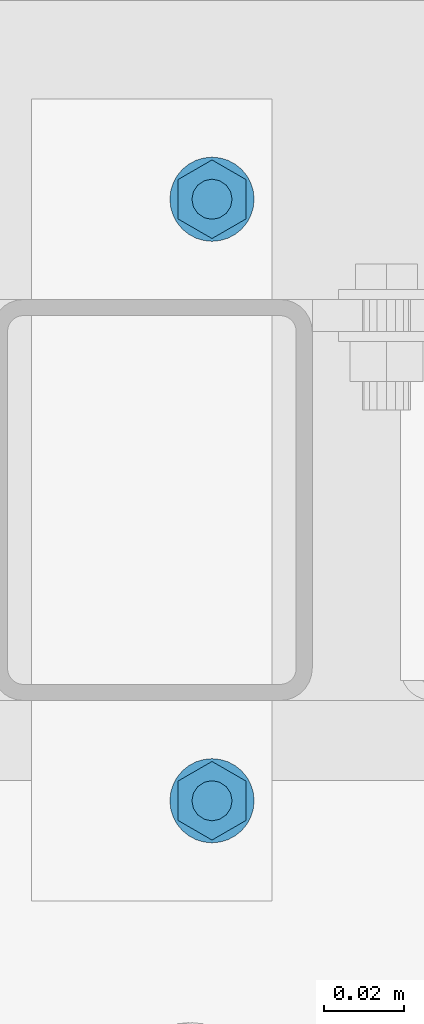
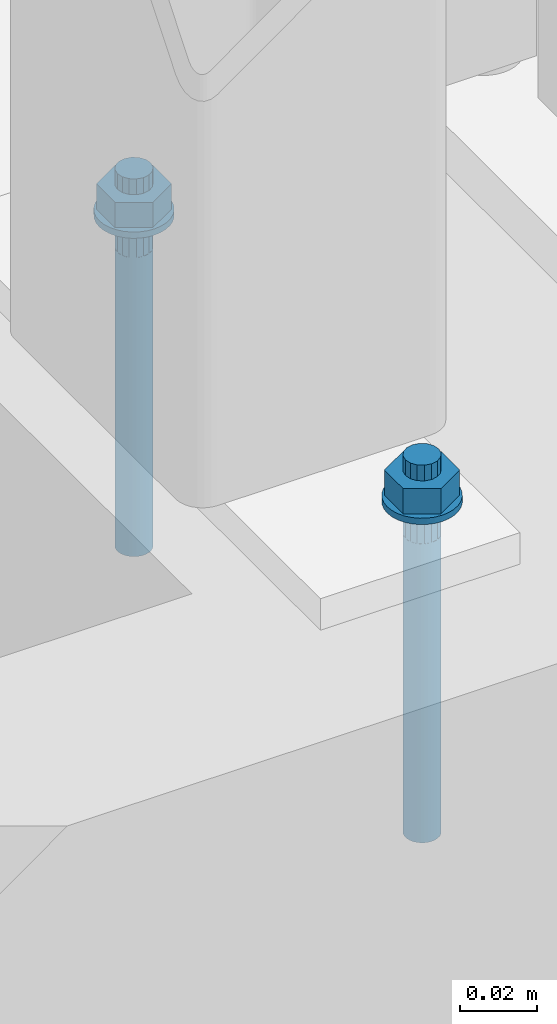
# One storey, part 248 of 476: 1 mechanical fastener.
"""IFC2X3 building model written with IfcOpenShell, lengths in millimetres."""

from ifc_helpers import new_model, entity, si_unit, converted_unit, origin_with_axes, place, context, project, spatial, faceted_brep, element, save


model = new_model("IFC2X3")

# Units and contexts
model_context = context("Model", 3, precision=1e-09, world=origin_with_axes())
ifc_project = project(units=[si_unit("LENGTHUNIT", "METRE", prefix="MILLI"), si_unit("AREAUNIT", "SQUARE_METRE"), si_unit("VOLUMEUNIT", "CUBIC_METRE"), converted_unit("PLANEANGLEUNIT", "DEGREE", entity("IfcPlaneAngleMeasure", 0.01745329), si_unit("PLANEANGLEUNIT", "RADIAN"), dimensions=[0, 0, 0, 0, 0, 0, 0])], contexts=[model_context])

# Site, building, storey
site_placement = place(None, origin_with_axes())
site = spatial("IfcSite", under=ifc_project, at=site_placement, Name="mKR Teilneubau & Sanierung BA1 - Ostfildern", CompositionType="ELEMENT")
building_placement = place(site_placement, origin_with_axes())
building = spatial("IfcBuilding", under=site, at=building_placement, Name="Struktur 1", CompositionType="ELEMENT")
storey_placement = place(building_placement, origin_with_axes())
storey = spatial("IfcBuildingStorey", under=building, at=storey_placement, Name="Default Storey", CompositionType="ELEMENT", Elevation=0.0)

# Mechanical fastener
mechanical_fastener_placement = place(None, origin_with_axes())
element("IfcMechanicalFastener", 1, at=mechanical_fastener_placement, inside=storey, ObjectType="Anchor_Bolt#1", NominalDiameter=10.0, NominalLength=120.0, context=model_context, shape_type="Brep", body=[
    faceted_brep([(23520.109764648, -4143.67387897, 527.0), (23520.109764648, -4143.67387897, 525.0), (23520.311519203, -4145.722327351, 525.0), (23520.311519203, -4145.722327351, 527.0), (23520.909029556, -4147.69205501, 525.0), (23520.909029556, -4147.69205501, 527.0), (23521.879333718, -4149.507366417, 525.0), (23521.879333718, -4149.507366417, 527.0), (23523.185143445, -4151.098500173, 525.0), (23523.185143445, -4151.098500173, 527.0), (23524.776277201, -4152.404309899, 525.0), (23524.776277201, -4152.404309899, 527.0), (23526.591588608, -4153.374614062, 525.0), (23526.591588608, -4153.374614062, 527.0), (23528.561316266, -4153.972124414, 525.0), (23528.561316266, -4153.972124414, 527.0), (23530.609764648, -4154.17387897, 525.0), (23530.609764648, -4154.17387897, 527.0), (23532.658213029, -4153.972124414, 525.0), (23532.658213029, -4153.972124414, 527.0), (23534.627940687, -4153.374614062, 525.0), (23534.627940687, -4153.374614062, 527.0), (23536.443252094, -4152.404309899, 525.0), (23536.443252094, -4152.404309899, 527.0), (23538.03438585, -4151.098500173, 525.0), (23538.03438585, -4151.098500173, 527.0), (23539.340195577, -4149.507366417, 525.0), (23539.340195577, -4149.507366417, 527.0), (23540.310499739, -4147.69205501, 525.0), (23540.310499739, -4147.69205501, 527.0), (23540.908010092, -4145.722327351, 525.0), (23540.908010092, -4145.722327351, 527.0), (23541.109764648, -4143.67387897, 525.0), (23541.109764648, -4143.67387897, 527.0), (23540.908010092, -4141.625430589, 525.0), (23540.908010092, -4141.625430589, 527.0), (23540.310499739, -4139.65570293, 525.0), (23540.310499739, -4139.65570293, 527.0), (23539.340195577, -4137.840391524, 525.0), (23539.340195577, -4137.840391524, 527.0), (23538.03438585, -4136.249257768, 525.0), (23538.03438585, -4136.249257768, 527.0), (23536.443252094, -4134.943448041, 525.0), (23536.443252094, -4134.943448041, 527.0), (23534.627940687, -4133.973143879, 525.0), (23534.627940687, -4133.973143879, 527.0), (23532.658213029, -4133.375633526, 525.0), (23532.658213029, -4133.375633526, 527.0), (23530.609764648, -4133.17387897, 525.0), (23530.609764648, -4133.17387897, 527.0), (23528.561316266, -4133.375633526, 525.0), (23528.561316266, -4133.375633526, 527.0), (23526.591588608, -4133.973143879, 525.0), (23526.591588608, -4133.973143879, 527.0), (23524.776277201, -4134.943448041, 525.0), (23524.776277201, -4134.943448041, 527.0), (23523.185143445, -4136.249257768, 525.0), (23523.185143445, -4136.249257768, 527.0), (23521.879333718, -4137.840391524, 525.0), (23521.879333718, -4137.840391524, 527.0), (23520.909029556, -4139.65570293, 525.0), (23520.909029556, -4139.65570293, 527.0), (23520.311519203, -4141.625430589, 525.0), (23520.311519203, -4141.625430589, 527.0)], [[[0, 1, 2, 3]], [[3, 2, 4, 5]], [[5, 4, 6, 7]], [[7, 6, 8, 9]], [[9, 8, 10, 11]], [[11, 10, 12, 13]], [[13, 12, 14, 15]], [[15, 14, 16, 17]], [[17, 16, 18, 19]], [[19, 18, 20, 21]], [[21, 20, 22, 23]], [[23, 22, 24, 25]], [[25, 24, 26, 27]], [[27, 26, 28, 29]], [[29, 28, 30, 31]], [[31, 30, 32, 33]], [[33, 32, 34, 35]], [[35, 34, 36, 37]], [[37, 36, 38, 39]], [[39, 38, 40, 41]], [[41, 40, 42, 43]], [[43, 42, 44, 45]], [[45, 44, 46, 47]], [[47, 46, 48, 49]], [[49, 48, 50, 51]], [[51, 50, 52, 53]], [[53, 52, 54, 55]], [[55, 54, 56, 57]], [[57, 56, 58, 59]], [[59, 58, 60, 61]], [[61, 60, 62, 63]], [[63, 62, 1, 0]], [[0, 3, 5, 7, 9, 11, 13, 15, 17, 19, 21, 23, 25, 27, 29, 31, 33, 35, 37, 39, 41, 43, 45, 47, 49, 51, 53, 55, 57, 59, 61, 63]], [[1, 62, 60, 58, 56, 54, 52, 50, 48, 46, 44, 42, 40, 38, 36, 34, 32, 30, 28, 26, 24, 22, 20, 18, 16, 14, 12, 10, 8, 6, 4, 2]]]),
    faceted_brep([(23520.109764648, -4293.67387897, 527.0), (23520.109764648, -4293.67387897, 525.0), (23520.311519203, -4295.722327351, 525.0), (23520.311519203, -4295.722327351, 527.0), (23520.909029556, -4297.69205501, 525.0), (23520.909029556, -4297.69205501, 527.0), (23521.879333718, -4299.507366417, 525.0), (23521.879333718, -4299.507366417, 527.0), (23523.185143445, -4301.098500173, 525.0), (23523.185143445, -4301.098500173, 527.0), (23524.776277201, -4302.404309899, 525.0), (23524.776277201, -4302.404309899, 527.0), (23526.591588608, -4303.374614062, 525.0), (23526.591588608, -4303.374614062, 527.0), (23528.561316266, -4303.972124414, 525.0), (23528.561316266, -4303.972124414, 527.0), (23530.609764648, -4304.17387897, 525.0), (23530.609764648, -4304.17387897, 527.0), (23532.658213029, -4303.972124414, 525.0), (23532.658213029, -4303.972124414, 527.0), (23534.627940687, -4303.374614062, 525.0), (23534.627940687, -4303.374614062, 527.0), (23536.443252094, -4302.404309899, 525.0), (23536.443252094, -4302.404309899, 527.0), (23538.03438585, -4301.098500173, 525.0), (23538.03438585, -4301.098500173, 527.0), (23539.340195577, -4299.507366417, 525.0), (23539.340195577, -4299.507366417, 527.0), (23540.310499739, -4297.69205501, 525.0), (23540.310499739, -4297.69205501, 527.0), (23540.908010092, -4295.722327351, 525.0), (23540.908010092, -4295.722327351, 527.0), (23541.109764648, -4293.67387897, 525.0), (23541.109764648, -4293.67387897, 527.0), (23540.908010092, -4291.625430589, 525.0), (23540.908010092, -4291.625430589, 527.0), (23540.310499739, -4289.65570293, 525.0), (23540.310499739, -4289.65570293, 527.0), (23539.340195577, -4287.840391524, 525.0), (23539.340195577, -4287.840391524, 527.0), (23538.03438585, -4286.249257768, 525.0), (23538.03438585, -4286.249257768, 527.0), (23536.443252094, -4284.943448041, 525.0), (23536.443252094, -4284.943448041, 527.0), (23534.627940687, -4283.973143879, 525.0), (23534.627940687, -4283.973143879, 527.0), (23532.658213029, -4283.375633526, 525.0), (23532.658213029, -4283.375633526, 527.0), (23530.609764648, -4283.17387897, 525.0), (23530.609764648, -4283.17387897, 527.0), (23528.561316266, -4283.375633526, 525.0), (23528.561316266, -4283.375633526, 527.0), (23526.591588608, -4283.973143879, 525.0), (23526.591588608, -4283.973143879, 527.0), (23524.776277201, -4284.943448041, 525.0), (23524.776277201, -4284.943448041, 527.0), (23523.185143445, -4286.249257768, 525.0), (23523.185143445, -4286.249257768, 527.0), (23521.879333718, -4287.840391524, 525.0), (23521.879333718, -4287.840391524, 527.0), (23520.909029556, -4289.65570293, 525.0), (23520.909029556, -4289.65570293, 527.0), (23520.311519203, -4291.625430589, 525.0), (23520.311519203, -4291.625430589, 527.0)], [[[0, 1, 2, 3]], [[3, 2, 4, 5]], [[5, 4, 6, 7]], [[7, 6, 8, 9]], [[9, 8, 10, 11]], [[11, 10, 12, 13]], [[13, 12, 14, 15]], [[15, 14, 16, 17]], [[17, 16, 18, 19]], [[19, 18, 20, 21]], [[21, 20, 22, 23]], [[23, 22, 24, 25]], [[25, 24, 26, 27]], [[27, 26, 28, 29]], [[29, 28, 30, 31]], [[31, 30, 32, 33]], [[33, 32, 34, 35]], [[35, 34, 36, 37]], [[37, 36, 38, 39]], [[39, 38, 40, 41]], [[41, 40, 42, 43]], [[43, 42, 44, 45]], [[45, 44, 46, 47]], [[47, 46, 48, 49]], [[49, 48, 50, 51]], [[51, 50, 52, 53]], [[53, 52, 54, 55]], [[55, 54, 56, 57]], [[57, 56, 58, 59]], [[59, 58, 60, 61]], [[61, 60, 62, 63]], [[63, 62, 1, 0]], [[0, 3, 5, 7, 9, 11, 13, 15, 17, 19, 21, 23, 25, 27, 29, 31, 33, 35, 37, 39, 41, 43, 45, 47, 49, 51, 53, 55, 57, 59, 61, 63]], [[1, 62, 60, 58, 56, 54, 52, 50, 48, 46, 44, 42, 40, 38, 36, 34, 32, 30, 28, 26, 24, 22, 20, 18, 16, 14, 12, 10, 8, 6, 4, 2]]]),
    faceted_brep([(23539.096813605, -4148.57387897, 527.0), (23539.096813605, -4148.57387897, 535.0), (23530.609764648, -4153.47387897, 535.0), (23530.609764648, -4153.47387897, 527.0), (23522.12271569, -4148.57387897, 535.0), (23522.12271569, -4148.57387897, 527.0), (23522.12271569, -4138.77387897, 535.0), (23522.12271569, -4138.77387897, 527.0), (23530.609764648, -4133.87387897, 535.0), (23530.609764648, -4133.87387897, 527.0), (23539.096813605, -4138.77387897, 535.0), (23539.096813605, -4138.77387897, 527.0)], [[[0, 1, 2, 3]], [[3, 2, 4, 5]], [[5, 4, 6, 7]], [[7, 6, 8, 9]], [[9, 8, 10, 11]], [[11, 10, 1, 0]], [[4, 2, 1, 10, 8, 6]], [[0, 3, 5, 7, 9, 11]]]),
    faceted_brep([(23539.096813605, -4298.57387897, 527.0), (23539.096813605, -4298.57387897, 535.0), (23530.609764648, -4303.47387897, 535.0), (23530.609764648, -4303.47387897, 527.0), (23522.12271569, -4298.57387897, 535.0), (23522.12271569, -4298.57387897, 527.0), (23522.12271569, -4288.77387897, 535.0), (23522.12271569, -4288.77387897, 527.0), (23530.609764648, -4283.87387897, 535.0), (23530.609764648, -4283.87387897, 527.0), (23539.096813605, -4288.77387897, 535.0), (23539.096813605, -4288.77387897, 527.0)], [[[0, 1, 2, 3]], [[3, 2, 4, 5]], [[5, 4, 6, 7]], [[7, 6, 8, 9]], [[9, 8, 10, 11]], [[11, 10, 1, 0]], [[4, 2, 1, 10, 8, 6]], [[0, 3, 5, 7, 9, 11]]]),
    faceted_brep([(23525.609764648, -4143.67387897, 540.0), (23525.609764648, -4143.67387897, 535.0), (23525.990366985, -4145.587296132, 535.0), (23525.990366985, -4145.587296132, 540.0), (23527.074230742, -4147.209412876, 535.0), (23527.074230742, -4147.209412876, 540.0), (23528.696347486, -4148.293276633, 535.0), (23528.696347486, -4148.293276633, 540.0), (23530.609764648, -4148.67387897, 535.0), (23530.609764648, -4148.67387897, 540.0), (23532.523181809, -4148.293276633, 535.0), (23532.523181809, -4148.293276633, 540.0), (23534.145298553, -4147.209412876, 535.0), (23534.145298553, -4147.209412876, 540.0), (23535.22916231, -4145.587296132, 535.0), (23535.22916231, -4145.587296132, 540.0), (23535.609764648, -4143.67387897, 535.0), (23535.609764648, -4143.67387897, 540.0), (23535.22916231, -4141.760461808, 535.0), (23535.22916231, -4141.760461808, 540.0), (23534.145298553, -4140.138345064, 535.0), (23534.145298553, -4140.138345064, 540.0), (23532.523181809, -4139.054481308, 535.0), (23532.523181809, -4139.054481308, 540.0), (23530.609764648, -4138.67387897, 535.0), (23530.609764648, -4138.67387897, 540.0), (23528.696347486, -4139.054481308, 535.0), (23528.696347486, -4139.054481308, 540.0), (23527.074230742, -4140.138345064, 535.0), (23527.074230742, -4140.138345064, 540.0), (23525.990366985, -4141.760461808, 535.0), (23525.990366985, -4141.760461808, 540.0)], [[[0, 1, 2, 3]], [[3, 2, 4, 5]], [[5, 4, 6, 7]], [[7, 6, 8, 9]], [[9, 8, 10, 11]], [[11, 10, 12, 13]], [[13, 12, 14, 15]], [[15, 14, 16, 17]], [[17, 16, 18, 19]], [[19, 18, 20, 21]], [[21, 20, 22, 23]], [[23, 22, 24, 25]], [[25, 24, 26, 27]], [[27, 26, 28, 29]], [[29, 28, 30, 31]], [[31, 30, 1, 0]], [[0, 3, 5, 7, 9, 11, 13, 15, 17, 19, 21, 23, 25, 27, 29, 31]], [[1, 30, 28, 26, 24, 22, 20, 18, 16, 14, 12, 10, 8, 6, 4, 2]]]),
    faceted_brep([(23525.609764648, -4293.67387897, 540.0), (23525.609764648, -4293.67387897, 535.0), (23525.990366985, -4295.587296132, 535.0), (23525.990366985, -4295.587296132, 540.0), (23527.074230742, -4297.209412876, 535.0), (23527.074230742, -4297.209412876, 540.0), (23528.696347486, -4298.293276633, 535.0), (23528.696347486, -4298.293276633, 540.0), (23530.609764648, -4298.67387897, 535.0), (23530.609764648, -4298.67387897, 540.0), (23532.523181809, -4298.293276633, 535.0), (23532.523181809, -4298.293276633, 540.0), (23534.145298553, -4297.209412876, 535.0), (23534.145298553, -4297.209412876, 540.0), (23535.22916231, -4295.587296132, 535.0), (23535.22916231, -4295.587296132, 540.0), (23535.609764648, -4293.67387897, 535.0), (23535.609764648, -4293.67387897, 540.0), (23535.22916231, -4291.760461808, 535.0), (23535.22916231, -4291.760461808, 540.0), (23534.145298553, -4290.138345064, 535.0), (23534.145298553, -4290.138345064, 540.0), (23532.523181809, -4289.054481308, 535.0), (23532.523181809, -4289.054481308, 540.0), (23530.609764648, -4288.67387897, 535.0), (23530.609764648, -4288.67387897, 540.0), (23528.696347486, -4289.054481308, 535.0), (23528.696347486, -4289.054481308, 540.0), (23527.074230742, -4290.138345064, 535.0), (23527.074230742, -4290.138345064, 540.0), (23525.990366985, -4291.760461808, 535.0), (23525.990366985, -4291.760461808, 540.0)], [[[0, 1, 2, 3]], [[3, 2, 4, 5]], [[5, 4, 6, 7]], [[7, 6, 8, 9]], [[9, 8, 10, 11]], [[11, 10, 12, 13]], [[13, 12, 14, 15]], [[15, 14, 16, 17]], [[17, 16, 18, 19]], [[19, 18, 20, 21]], [[21, 20, 22, 23]], [[23, 22, 24, 25]], [[25, 24, 26, 27]], [[27, 26, 28, 29]], [[29, 28, 30, 31]], [[31, 30, 1, 0]], [[0, 3, 5, 7, 9, 11, 13, 15, 17, 19, 21, 23, 25, 27, 29, 31]], [[1, 30, 28, 26, 24, 22, 20, 18, 16, 14, 12, 10, 8, 6, 4, 2]]]),
    faceted_brep([(23525.609764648, -4143.67387897, 525.0), (23525.609764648, -4143.67387897, 515.0), (23525.990366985, -4145.587296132, 515.0), (23525.990366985, -4145.587296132, 525.0), (23527.074230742, -4147.209412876, 515.0), (23527.074230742, -4147.209412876, 525.0), (23528.696347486, -4148.293276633, 515.0), (23528.696347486, -4148.293276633, 525.0), (23530.609764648, -4148.67387897, 515.0), (23530.609764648, -4148.67387897, 525.0), (23532.523181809, -4148.293276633, 515.0), (23532.523181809, -4148.293276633, 525.0), (23534.145298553, -4147.209412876, 515.0), (23534.145298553, -4147.209412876, 525.0), (23535.22916231, -4145.587296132, 515.0), (23535.22916231, -4145.587296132, 525.0), (23535.609764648, -4143.67387897, 515.0), (23535.609764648, -4143.67387897, 525.0), (23535.22916231, -4141.760461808, 515.0), (23535.22916231, -4141.760461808, 525.0), (23534.145298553, -4140.138345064, 515.0), (23534.145298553, -4140.138345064, 525.0), (23532.523181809, -4139.054481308, 515.0), (23532.523181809, -4139.054481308, 525.0), (23530.609764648, -4138.67387897, 515.0), (23530.609764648, -4138.67387897, 525.0), (23528.696347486, -4139.054481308, 515.0), (23528.696347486, -4139.054481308, 525.0), (23527.074230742, -4140.138345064, 515.0), (23527.074230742, -4140.138345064, 525.0), (23525.990366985, -4141.760461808, 515.0), (23525.990366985, -4141.760461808, 525.0)], [[[0, 1, 2, 3]], [[3, 2, 4, 5]], [[5, 4, 6, 7]], [[7, 6, 8, 9]], [[9, 8, 10, 11]], [[11, 10, 12, 13]], [[13, 12, 14, 15]], [[15, 14, 16, 17]], [[17, 16, 18, 19]], [[19, 18, 20, 21]], [[21, 20, 22, 23]], [[23, 22, 24, 25]], [[25, 24, 26, 27]], [[27, 26, 28, 29]], [[29, 28, 30, 31]], [[31, 30, 1, 0]], [[0, 3, 5, 7, 9, 11, 13, 15, 17, 19, 21, 23, 25, 27, 29, 31]], [[1, 30, 28, 26, 24, 22, 20, 18, 16, 14, 12, 10, 8, 6, 4, 2]]]),
    faceted_brep([(23525.609764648, -4293.67387897, 525.0), (23525.609764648, -4293.67387897, 515.0), (23525.990366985, -4295.587296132, 515.0), (23525.990366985, -4295.587296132, 525.0), (23527.074230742, -4297.209412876, 515.0), (23527.074230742, -4297.209412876, 525.0), (23528.696347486, -4298.293276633, 515.0), (23528.696347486, -4298.293276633, 525.0), (23530.609764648, -4298.67387897, 515.0), (23530.609764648, -4298.67387897, 525.0), (23532.523181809, -4298.293276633, 515.0), (23532.523181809, -4298.293276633, 525.0), (23534.145298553, -4297.209412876, 515.0), (23534.145298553, -4297.209412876, 525.0), (23535.22916231, -4295.587296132, 515.0), (23535.22916231, -4295.587296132, 525.0), (23535.609764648, -4293.67387897, 515.0), (23535.609764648, -4293.67387897, 525.0), (23535.22916231, -4291.760461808, 515.0), (23535.22916231, -4291.760461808, 525.0), (23534.145298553, -4290.138345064, 515.0), (23534.145298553, -4290.138345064, 525.0), (23532.523181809, -4289.054481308, 515.0), (23532.523181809, -4289.054481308, 525.0), (23530.609764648, -4288.67387897, 515.0), (23530.609764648, -4288.67387897, 525.0), (23528.696347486, -4289.054481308, 515.0), (23528.696347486, -4289.054481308, 525.0), (23527.074230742, -4290.138345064, 515.0), (23527.074230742, -4290.138345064, 525.0), (23525.990366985, -4291.760461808, 515.0), (23525.990366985, -4291.760461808, 525.0)], [[[0, 1, 2, 3]], [[3, 2, 4, 5]], [[5, 4, 6, 7]], [[7, 6, 8, 9]], [[9, 8, 10, 11]], [[11, 10, 12, 13]], [[13, 12, 14, 15]], [[15, 14, 16, 17]], [[17, 16, 18, 19]], [[19, 18, 20, 21]], [[21, 20, 22, 23]], [[23, 22, 24, 25]], [[25, 24, 26, 27]], [[27, 26, 28, 29]], [[29, 28, 30, 31]], [[31, 30, 1, 0]], [[0, 3, 5, 7, 9, 11, 13, 15, 17, 19, 21, 23, 25, 27, 29, 31]], [[1, 30, 28, 26, 24, 22, 20, 18, 16, 14, 12, 10, 8, 6, 4, 2]]]),
    faceted_brep([(23525.609764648, -4143.67387897, 515.0), (23525.609764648, -4143.67387897, 420.0), (23525.705838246, -4144.64933058, 420.0), (23525.705838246, -4144.64933058, 515.0), (23525.990366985, -4145.587296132, 420.0), (23525.990366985, -4145.587296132, 515.0), (23526.452416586, -4146.451730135, 420.0), (23526.452416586, -4146.451730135, 515.0), (23527.074230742, -4147.209412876, 420.0), (23527.074230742, -4147.209412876, 515.0), (23527.831913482, -4147.831227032, 420.0), (23527.831913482, -4147.831227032, 515.0), (23528.696347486, -4148.293276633, 420.0), (23528.696347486, -4148.293276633, 515.0), (23529.634313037, -4148.577805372, 420.0), (23529.634313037, -4148.577805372, 515.0), (23530.609764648, -4148.67387897, 420.0), (23530.609764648, -4148.67387897, 515.0), (23531.585216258, -4148.577805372, 420.0), (23531.585216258, -4148.577805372, 515.0), (23532.523181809, -4148.293276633, 420.0), (23532.523181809, -4148.293276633, 515.0), (23533.387615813, -4147.831227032, 420.0), (23533.387615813, -4147.831227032, 515.0), (23534.145298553, -4147.209412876, 420.0), (23534.145298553, -4147.209412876, 515.0), (23534.767112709, -4146.451730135, 420.0), (23534.767112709, -4146.451730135, 515.0), (23535.22916231, -4145.587296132, 420.0), (23535.22916231, -4145.587296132, 515.0), (23535.51369105, -4144.64933058, 420.0), (23535.51369105, -4144.64933058, 515.0), (23535.609764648, -4143.67387897, 420.0), (23535.609764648, -4143.67387897, 515.0), (23535.51369105, -4142.69842736, 420.0), (23535.51369105, -4142.69842736, 515.0), (23535.22916231, -4141.760461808, 420.0), (23535.22916231, -4141.760461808, 515.0), (23534.767112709, -4140.896027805, 420.0), (23534.767112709, -4140.896027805, 515.0), (23534.145298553, -4140.138345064, 420.0), (23534.145298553, -4140.138345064, 515.0), (23533.387615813, -4139.516530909, 420.0), (23533.387615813, -4139.516530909, 515.0), (23532.523181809, -4139.054481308, 420.0), (23532.523181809, -4139.054481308, 515.0), (23531.585216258, -4138.769952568, 420.0), (23531.585216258, -4138.769952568, 515.0), (23530.609764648, -4138.67387897, 420.0), (23530.609764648, -4138.67387897, 515.0), (23529.634313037, -4138.769952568, 420.0), (23529.634313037, -4138.769952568, 515.0), (23528.696347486, -4139.054481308, 420.0), (23528.696347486, -4139.054481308, 515.0), (23527.831913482, -4139.516530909, 420.0), (23527.831913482, -4139.516530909, 515.0), (23527.074230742, -4140.138345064, 420.0), (23527.074230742, -4140.138345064, 515.0), (23526.452416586, -4140.896027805, 420.0), (23526.452416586, -4140.896027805, 515.0), (23525.990366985, -4141.760461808, 420.0), (23525.990366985, -4141.760461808, 515.0), (23525.705838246, -4142.69842736, 420.0), (23525.705838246, -4142.69842736, 515.0)], [[[0, 1, 2, 3]], [[3, 2, 4, 5]], [[5, 4, 6, 7]], [[7, 6, 8, 9]], [[9, 8, 10, 11]], [[11, 10, 12, 13]], [[13, 12, 14, 15]], [[15, 14, 16, 17]], [[17, 16, 18, 19]], [[19, 18, 20, 21]], [[21, 20, 22, 23]], [[23, 22, 24, 25]], [[25, 24, 26, 27]], [[27, 26, 28, 29]], [[29, 28, 30, 31]], [[31, 30, 32, 33]], [[33, 32, 34, 35]], [[35, 34, 36, 37]], [[37, 36, 38, 39]], [[39, 38, 40, 41]], [[41, 40, 42, 43]], [[43, 42, 44, 45]], [[45, 44, 46, 47]], [[47, 46, 48, 49]], [[49, 48, 50, 51]], [[51, 50, 52, 53]], [[53, 52, 54, 55]], [[55, 54, 56, 57]], [[57, 56, 58, 59]], [[59, 58, 60, 61]], [[61, 60, 62, 63]], [[63, 62, 1, 0]], [[0, 3, 5, 7, 9, 11, 13, 15, 17, 19, 21, 23, 25, 27, 29, 31, 33, 35, 37, 39, 41, 43, 45, 47, 49, 51, 53, 55, 57, 59, 61, 63]], [[1, 62, 60, 58, 56, 54, 52, 50, 48, 46, 44, 42, 40, 38, 36, 34, 32, 30, 28, 26, 24, 22, 20, 18, 16, 14, 12, 10, 8, 6, 4, 2]]]),
    faceted_brep([(23525.609764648, -4293.67387897, 515.0), (23525.609764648, -4293.67387897, 420.0), (23525.705838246, -4294.64933058, 420.0), (23525.705838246, -4294.64933058, 515.0), (23525.990366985, -4295.587296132, 420.0), (23525.990366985, -4295.587296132, 515.0), (23526.452416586, -4296.451730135, 420.0), (23526.452416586, -4296.451730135, 515.0), (23527.074230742, -4297.209412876, 420.0), (23527.074230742, -4297.209412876, 515.0), (23527.831913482, -4297.831227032, 420.0), (23527.831913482, -4297.831227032, 515.0), (23528.696347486, -4298.293276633, 420.0), (23528.696347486, -4298.293276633, 515.0), (23529.634313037, -4298.577805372, 420.0), (23529.634313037, -4298.577805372, 515.0), (23530.609764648, -4298.67387897, 420.0), (23530.609764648, -4298.67387897, 515.0), (23531.585216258, -4298.577805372, 420.0), (23531.585216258, -4298.577805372, 515.0), (23532.523181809, -4298.293276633, 420.0), (23532.523181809, -4298.293276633, 515.0), (23533.387615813, -4297.831227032, 420.0), (23533.387615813, -4297.831227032, 515.0), (23534.145298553, -4297.209412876, 420.0), (23534.145298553, -4297.209412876, 515.0), (23534.767112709, -4296.451730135, 420.0), (23534.767112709, -4296.451730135, 515.0), (23535.22916231, -4295.587296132, 420.0), (23535.22916231, -4295.587296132, 515.0), (23535.51369105, -4294.64933058, 420.0), (23535.51369105, -4294.64933058, 515.0), (23535.609764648, -4293.67387897, 420.0), (23535.609764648, -4293.67387897, 515.0), (23535.51369105, -4292.69842736, 420.0), (23535.51369105, -4292.69842736, 515.0), (23535.22916231, -4291.760461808, 420.0), (23535.22916231, -4291.760461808, 515.0), (23534.767112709, -4290.896027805, 420.0), (23534.767112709, -4290.896027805, 515.0), (23534.145298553, -4290.138345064, 420.0), (23534.145298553, -4290.138345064, 515.0), (23533.387615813, -4289.516530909, 420.0), (23533.387615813, -4289.516530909, 515.0), (23532.523181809, -4289.054481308, 420.0), (23532.523181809, -4289.054481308, 515.0), (23531.585216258, -4288.769952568, 420.0), (23531.585216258, -4288.769952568, 515.0), (23530.609764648, -4288.67387897, 420.0), (23530.609764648, -4288.67387897, 515.0), (23529.634313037, -4288.769952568, 420.0), (23529.634313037, -4288.769952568, 515.0), (23528.696347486, -4289.054481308, 420.0), (23528.696347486, -4289.054481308, 515.0), (23527.831913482, -4289.516530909, 420.0), (23527.831913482, -4289.516530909, 515.0), (23527.074230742, -4290.138345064, 420.0), (23527.074230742, -4290.138345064, 515.0), (23526.452416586, -4290.896027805, 420.0), (23526.452416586, -4290.896027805, 515.0), (23525.990366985, -4291.760461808, 420.0), (23525.990366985, -4291.760461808, 515.0), (23525.705838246, -4292.69842736, 420.0), (23525.705838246, -4292.69842736, 515.0)], [[[0, 1, 2, 3]], [[3, 2, 4, 5]], [[5, 4, 6, 7]], [[7, 6, 8, 9]], [[9, 8, 10, 11]], [[11, 10, 12, 13]], [[13, 12, 14, 15]], [[15, 14, 16, 17]], [[17, 16, 18, 19]], [[19, 18, 20, 21]], [[21, 20, 22, 23]], [[23, 22, 24, 25]], [[25, 24, 26, 27]], [[27, 26, 28, 29]], [[29, 28, 30, 31]], [[31, 30, 32, 33]], [[33, 32, 34, 35]], [[35, 34, 36, 37]], [[37, 36, 38, 39]], [[39, 38, 40, 41]], [[41, 40, 42, 43]], [[43, 42, 44, 45]], [[45, 44, 46, 47]], [[47, 46, 48, 49]], [[49, 48, 50, 51]], [[51, 50, 52, 53]], [[53, 52, 54, 55]], [[55, 54, 56, 57]], [[57, 56, 58, 59]], [[59, 58, 60, 61]], [[61, 60, 62, 63]], [[63, 62, 1, 0]], [[0, 3, 5, 7, 9, 11, 13, 15, 17, 19, 21, 23, 25, 27, 29, 31, 33, 35, 37, 39, 41, 43, 45, 47, 49, 51, 53, 55, 57, 59, 61, 63]], [[1, 62, 60, 58, 56, 54, 52, 50, 48, 46, 44, 42, 40, 38, 36, 34, 32, 30, 28, 26, 24, 22, 20, 18, 16, 14, 12, 10, 8, 6, 4, 2]]]),
])

save(model, "model.ifc")
